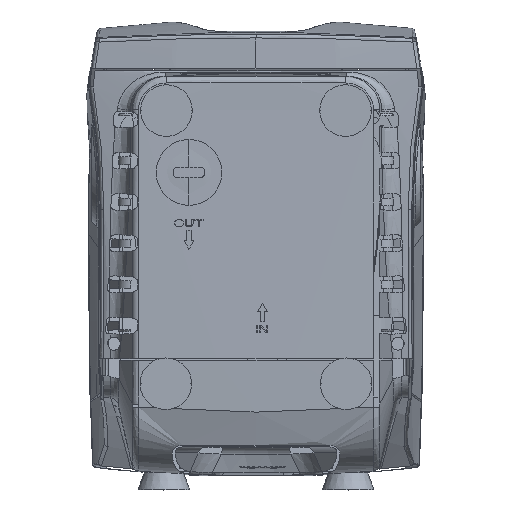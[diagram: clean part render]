
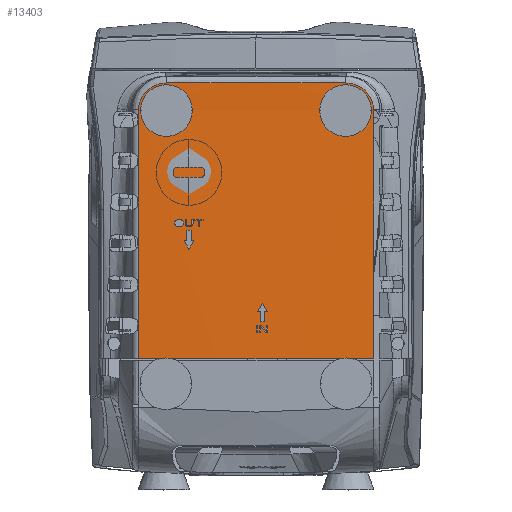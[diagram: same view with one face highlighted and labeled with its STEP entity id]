
A CAD part, top view. The second image highlights one B-rep face of the part: STEP entity #13403.
In plain terms, the highlighted cylindrical face has radius 8450.5 mm (diameter 16901 mm), a partial arc.
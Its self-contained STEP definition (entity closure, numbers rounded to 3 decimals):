
#9673=CARTESIAN_POINT('',(-5.,-14.45,-7984.));
#9674=DIRECTION('',(0.,-1.,0.));
#9675=DIRECTION('',(0.011,0.,1.));
#9676=AXIS2_PLACEMENT_3D('',#9673,#9674,#9675);
#9678=DIRECTION('',(0.,-1.,0.));
#9679=VECTOR('',#9678,193.15);
#9680=CARTESIAN_POINT('',(-96.181,178.7,466.008));
#9681=LINE('',#9680,#9679);
#9682=CARTESIAN_POINT('',(-74.433,199.446,466.215));
#9683=CARTESIAN_POINT('',(-76.112,199.446,466.201));
#9684=CARTESIAN_POINT('',(-79.372,199.088,466.173));
#9685=CARTESIAN_POINT('',(-84.097,197.491,466.13));
#9686=CARTESIAN_POINT('',(-88.265,194.942,466.09));
#9687=CARTESIAN_POINT('',(-91.707,191.595,466.055));
#9688=CARTESIAN_POINT('',(-94.263,187.638,466.029));
#9689=CARTESIAN_POINT('',(-95.832,183.251,466.012));
#9690=CARTESIAN_POINT('',(-96.181,180.242,466.008));
#9691=CARTESIAN_POINT('',(-96.181,178.7,466.008));
#9693=CARTESIAN_POINT('',(-5.,199.444,-7984.));
#9694=DIRECTION('',(0.,-1.,0.));
#9695=DIRECTION('',(0.008,0.,1.));
#9696=AXIS2_PLACEMENT_3D('',#9693,#9694,#9695);
#9698=CARTESIAN_POINT('',(86.181,178.7,466.008));
#9699=CARTESIAN_POINT('',(86.181,180.044,466.008));
#9700=CARTESIAN_POINT('',(85.914,182.683,466.011));
#9701=CARTESIAN_POINT('',(84.711,186.56,466.024));
#9702=CARTESIAN_POINT('',(82.74,190.148,466.045));
#9703=CARTESIAN_POINT('',(80.061,193.326,466.072));
#9704=CARTESIAN_POINT('',(76.755,195.963,466.105));
#9705=CARTESIAN_POINT('',(72.949,197.943,466.141));
#9706=CARTESIAN_POINT('',(68.764,199.171,466.178));
#9707=CARTESIAN_POINT('',(65.899,199.446,466.203));
#9708=CARTESIAN_POINT('',(64.433,199.446,466.215));
#9710=DIRECTION('',(0.,-1.,0.));
#9711=VECTOR('',#9710,193.15);
#9712=CARTESIAN_POINT('',(86.181,178.7,466.008));
#9713=LINE('',#9712,#9711);
#12937=CARTESIAN_POINT('',(86.181,178.7,466.008));
#12939=VERTEX_POINT('',#12937);
#13167=VERTEX_POINT('',#9682);
#13168=VERTEX_POINT('',#9691);
#13170=CARTESIAN_POINT('',(64.433,199.444,466.215));
#13171=VERTEX_POINT('',#13170);
#13311=CARTESIAN_POINT('',(-96.181,-14.45,466.008));
#13312=CARTESIAN_POINT('',(86.181,-14.45,466.008));
#13313=VERTEX_POINT('',#13311);
#13314=VERTEX_POINT('',#13312);
#13384=CARTESIAN_POINT('',(-5.,-40.5,-7984.));
#13385=DIRECTION('',(0.,1.,0.));
#13386=DIRECTION('',(0.,0.,1.));
#13387=AXIS2_PLACEMENT_3D('',#13384,#13385,#13386);
#13388=CYLINDRICAL_SURFACE('',#13387,8450.5);
#13390=ORIENTED_EDGE('',*,*,#13389,.T.);
#13392=ORIENTED_EDGE('',*,*,#13391,.F.);
#13394=ORIENTED_EDGE('',*,*,#13393,.F.);
#13396=ORIENTED_EDGE('',*,*,#13395,.F.);
#13398=ORIENTED_EDGE('',*,*,#13397,.F.);
#13400=ORIENTED_EDGE('',*,*,#13399,.T.);
#13401=EDGE_LOOP('',(#13390,#13392,#13394,#13396,#13398,#13400));
#13402=FACE_OUTER_BOUND('',#13401,.F.);
#13403=ADVANCED_FACE('',(#13402),#13388,.T.);
#9677=CIRCLE('',#9676,8450.5);
#9692=B_SPLINE_CURVE_WITH_KNOTS('',3,(#9682,#9683,#9684,#9685,#9686,#9687,#9688,
#9689,#9690,#9691),.UNSPECIFIED.,.F.,.F.,(4,1,1,1,1,1,1,4),(0.,
0.143,0.286,0.429,0.571,
0.714,0.857,1.),.UNSPECIFIED.);
#9697=CIRCLE('',#9696,8450.5);
#9709=B_SPLINE_CURVE_WITH_KNOTS('',3,(#9698,#9699,#9700,#9701,#9702,#9703,#9704,
#9705,#9706,#9707,#9708),.UNSPECIFIED.,.F.,.F.,(4,1,1,1,1,1,1,1,4),(0.,
0.125,0.25,0.375,0.5,0.625,0.75,0.875,1.),.UNSPECIFIED.);
#13389=EDGE_CURVE('',#13314,#13313,#9677,.T.);
#13391=EDGE_CURVE('',#13168,#13313,#9681,.T.);
#13393=EDGE_CURVE('',#13167,#13168,#9692,.T.);
#13395=EDGE_CURVE('',#13171,#13167,#9697,.T.);
#13397=EDGE_CURVE('',#12939,#13171,#9709,.T.);
#13399=EDGE_CURVE('',#12939,#13314,#9713,.T.);
